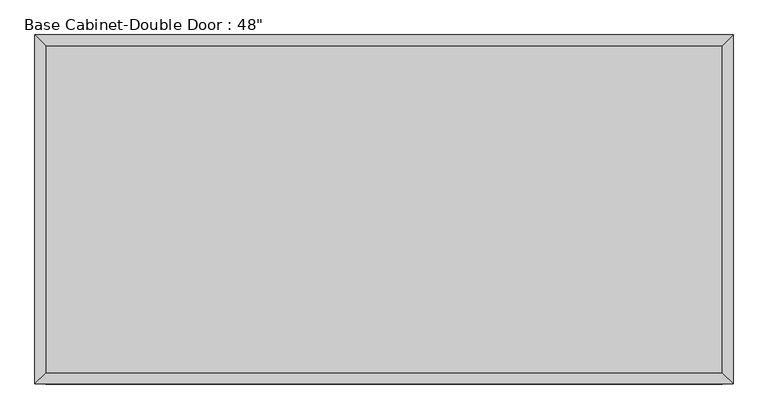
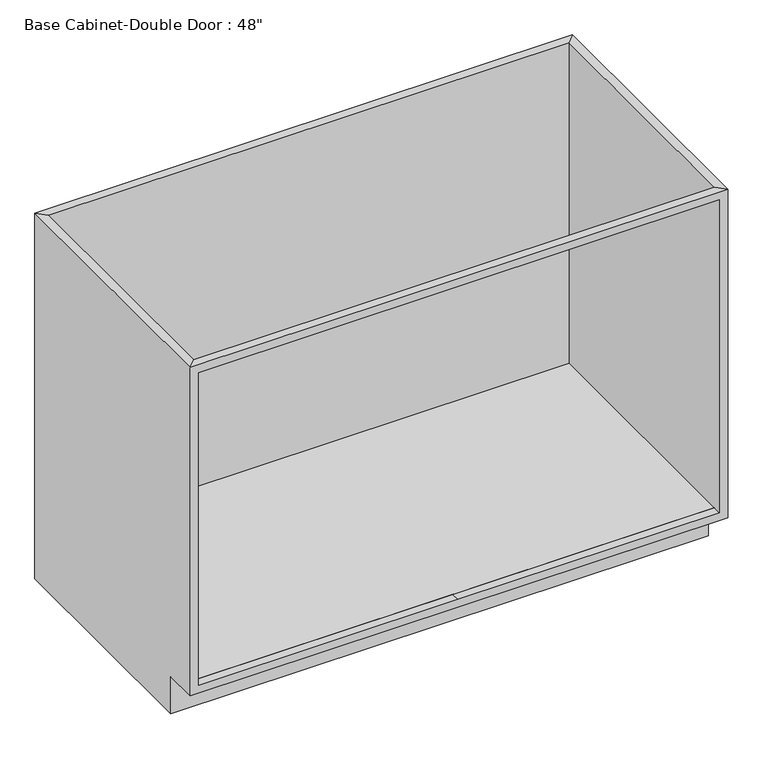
"""IFC4 building model written with IfcOpenShell, lengths in millimetres: furniture geometry."""

import ifcopenshell
import ifcopenshell.guid

model = None  # the IFC model being written
_history = None  # IfcOwnerHistory: only IFC2X3 demands one
_inside = {}  # id of a spatial element -> (the spatial element, [elements in it])
_under = {}  # id of a project, library or spatial element -> (it, [spatial elements below it])
_declared = {}  # id of a project -> (the project, [libraries it declares])
_typed = {}  # id of a type object -> (the type object, [elements of that type])
_made_of = {}  # id of a material, layer set ... -> (it, [elements and type objects made of it])


def new_model(schema):
    """Start an empty IFC model of exactly this schema.

    Asked for "IFC4X3", IfcOpenShell would pick the latest addendum, in which some entities
    have other attributes; the version numbers below select the first issue.
    IFC2X3 requires an IfcOwnerHistory on every rooted entity: one is made here for all.
    """
    global model, _history
    if schema == "IFC4X3":
        model = ifcopenshell.file(schema_version=(4, 3, 0, 0))
    else:
        model = ifcopenshell.file(schema=schema)
    _inside.clear()
    _under.clear()
    _declared.clear()
    _typed.clear()
    _made_of.clear()
    _history = None
    if model.schema == "IFC2X3":
        org = make("IfcOrganization", Name="unknown")
        user = make(
            "IfcPersonAndOrganization",
            ThePerson=make("IfcPerson", FamilyName="unknown"),
            TheOrganization=org,
        )
        app = make(
            "IfcApplication",
            ApplicationDeveloper=org,
            Version="unknown",
            ApplicationFullName="unknown",
            ApplicationIdentifier="unknown",
        )
        _history = make(
            "IfcOwnerHistory",
            OwningUser=user,
            OwningApplication=app,
            ChangeAction="ADDED",
            CreationDate=0,
        )
    return model


def make(cls, **values):
    """One entity of the class cls with the attributes given. An attribute that is None is left unset."""
    return model.create_entity(
        cls, **{name: value for name, value in values.items() if value is not None}
    )


def rooted(cls, **values):
    """An entity with a GlobalId (a new one), such as an element, a storey or a relation."""
    return make(cls, GlobalId=ifcopenshell.guid.new(), OwnerHistory=_history, **values)


def si_unit(unit_type, name, prefix=None):
    """IfcSIUnit, for example si_unit("LENGTHUNIT", "METRE", prefix="MILLI")."""
    return make("IfcSIUnit", UnitType=unit_type, Prefix=prefix, Name=name)


def assignment(units):
    """IfcUnitAssignment: the units of a project."""
    return None if units is None else make("IfcUnitAssignment", Units=units)


def point(xyz):
    """IfcCartesianPoint."""
    return None if xyz is None else make("IfcCartesianPoint", Coordinates=xyz)


def direction(xyz):
    """IfcDirection."""
    return None if xyz is None else make("IfcDirection", DirectionRatios=xyz)


def frame(location, z_axis=None, x_axis=None):
    """IfcAxis2Placement3D, a coordinate frame: its origin and axes. An axis left out is left unset."""
    return make(
        "IfcAxis2Placement3D",
        Location=point(location),
        Axis=direction(z_axis),
        RefDirection=direction(x_axis),
    )


def origin():
    """The frame at (0, 0, 0) with its axes left unset."""
    return frame((0.0, 0.0, 0.0))


def place(relative_to, where):
    """IfcLocalPlacement: puts the frame where relative to a parent placement (None: the world)."""
    return make(
        "IfcLocalPlacement", PlacementRelTo=relative_to, RelativePlacement=where
    )


def context(
    kind, dimensions, precision=None, world=None, true_north=None, identifier=None
):
    """IfcGeometricRepresentationContext, for example the 3D "Model" context."""
    return make(
        "IfcGeometricRepresentationContext",
        ContextIdentifier=identifier,
        ContextType=kind,
        CoordinateSpaceDimension=dimensions,
        Precision=precision,
        WorldCoordinateSystem=world,
        TrueNorth=true_north,
    )


def project(units=None, contexts=None):
    """IfcProject with its units and contexts."""
    return rooted(
        "IfcProject",
        Name="project",
        RepresentationContexts=contexts,
        UnitsInContext=assignment(units),
    )


def spatial(cls, under=None, at=None, **own):
    """A site, building, storey or space (cls), placed at a placement, below another one or the project."""
    s = rooted(cls, ObjectPlacement=at, **own)
    if under is not None:
        _under.setdefault(under.id(), (under, []))[1].append(s)
    return s


def polyline(points):
    """IfcPolyline through the points."""
    return make("IfcPolyline", Points=[point(p) for p in points])


def outline(outer, holes=None, kind="AREA"):
    """IfcArbitraryClosedProfileDef: a profile drawn as a closed curve; with holes, ...WithVoids."""
    if holes is None:
        return make("IfcArbitraryClosedProfileDef", ProfileType=kind, OuterCurve=outer)
    return make(
        "IfcArbitraryProfileDefWithVoids",
        ProfileType=kind,
        OuterCurve=outer,
        InnerCurves=holes,
    )


def extrude(swept, where, along, depth):
    """IfcExtrudedAreaSolid: the profile swept, set in the frame where, extruded along a direction by depth."""
    return make(
        "IfcExtrudedAreaSolid",
        SweptArea=swept,
        Position=where,
        ExtrudedDirection=direction(along),
        Depth=depth,
    )


def faces_of(points, faces, orient=None, outer=None):
    """IfcFace entities. A face is a list of loops; a loop is a list of indices into points, from 0.

    orient and outer hold one flag for each loop. By default every Orientation is true, the
    first loop of a face is its IfcFaceOuterBound and the others are IfcFaceBound.
    """
    made = []
    for i, loops in enumerate(faces):
        bounds = []
        for j, loop in enumerate(loops):
            is_outer = j == 0 if outer is None else outer[i][j]
            bounds.append(
                make(
                    "IfcFaceOuterBound" if is_outer else "IfcFaceBound",
                    Bound=make("IfcPolyLoop", Polygon=[points[k] for k in loop]),
                    Orientation=True if orient is None else orient[i][j],
                )
            )
        made.append(make("IfcFace", Bounds=bounds))
    return made


def faceted_brep(points, faces, orient=None, outer=None, voids=None):
    """IfcFacetedBrep: a solid bounded by flat faces; with voids (closed shells), ...WithVoids."""
    shared = [point(p) for p in points]
    hull = make("IfcClosedShell", CfsFaces=faces_of(shared, faces, orient, outer))
    if voids is None:
        return make("IfcFacetedBrep", Outer=hull)
    return make(
        "IfcFacetedBrepWithVoids",
        Outer=hull,
        Voids=[
            make(cls, CfsFaces=faces_of(shared, fs, o, b)) for cls, fs, o, b in voids
        ],
    )


def shape(context_of_items, identifier, shape_type, items):
    """IfcShapeRepresentation: the items that make up one representation, for example the "Body"."""
    return make(
        "IfcShapeRepresentation",
        ContextOfItems=context_of_items,
        RepresentationIdentifier=identifier,
        RepresentationType=shape_type,
        Items=items,
    )


def source(mapping_origin, context_of_items, identifier, shape_type, items):
    """IfcRepresentationMap: a shape defined once, which mapped items show again and again."""
    return make(
        "IfcRepresentationMap",
        MappingOrigin=mapping_origin,
        MappedRepresentation=shape(context_of_items, identifier, shape_type, items),
    )


def transform(
    local_origin,
    x_axis=None,
    y_axis=None,
    z_axis=None,
    scale=None,
    scale2=None,
    scale3=None,
    uniform=True,
):
    """IfcCartesianTransformationOperator3D, or its non-uniform kind. x_axis, y_axis, z_axis: its Axis1, 2, 3."""
    if uniform:
        return make(
            "IfcCartesianTransformationOperator3D",
            Axis1=direction(x_axis),
            Axis2=direction(y_axis),
            LocalOrigin=point(local_origin),
            Scale=scale,
            Axis3=direction(z_axis),
        )
    return make(
        "IfcCartesianTransformationOperator3DnonUniform",
        Axis1=direction(x_axis),
        Axis2=direction(y_axis),
        LocalOrigin=point(local_origin),
        Scale=scale,
        Axis3=direction(z_axis),
        Scale2=scale2,
        Scale3=scale3,
    )


def mapped(mapping_source, mapping_target):
    """IfcMappedItem: shows the shape of a source again, moved by a transform."""
    return make(
        "IfcMappedItem", MappingSource=mapping_source, MappingTarget=mapping_target
    )


def made_of(thing, what):
    """Note that an element or type object is made of a material, layer set ...; save() writes the relation."""
    if what is not None:
        _made_of.setdefault(what.id(), (what, []))[1].append(thing)
    return thing


def element(
    cls,
    number,
    at=None,
    inside=None,
    cuts=None,
    type_object=None,
    material=None,
    context=None,
    identifier="Body",
    shape_type=None,
    held_by="IfcProductDefinitionShape",
    body=None,
    shapes=None,
    **own,
):
    """One element of the class cls, such as IfcWall. Its Tag is "e" and its number.

    at: its placement. inside: the storey or other place that contains it. cuts: it is an
    opening in that element (IfcRelVoidsElement). A single representation is given by context,
    identifier, shape_type and body (its items); several are given by shapes. held_by: the class
    of the entity that holds the representations. save() writes the other relations.
    """
    e = rooted(cls, Tag="e%d" % number, ObjectPlacement=at, **own)
    if body is not None:
        shapes = [shape(context, identifier, shape_type, body)]
    if shapes is not None:
        e.Representation = make(held_by, Representations=shapes)
    if inside is not None:
        _inside.setdefault(inside.id(), (inside, []))[1].append(e)
    if cuts is not None:
        rooted(
            "IfcRelVoidsElement", RelatingBuildingElement=cuts, RelatedOpeningElement=e
        )
    if type_object is not None:
        _typed.setdefault(type_object.id(), (type_object, []))[1].append(e)
    return made_of(e, material)


def aggregate(whole, parts):
    """IfcRelAggregates: a whole, such as a stair, and the parts it consists of."""
    return rooted("IfcRelAggregates", RelatingObject=whole, RelatedObjects=parts)


def save(model, path):
    """Write the relations noted so far, then the file.

    IfcRelAggregates (storeys below a building ...), IfcRelContainedInSpatialStructure (elements
    in a storey), IfcRelDefinesByType, IfcRelAssociatesMaterial and IfcRelDeclares: one each for
    every whole, place, type object, material and project.
    """
    for whole, parts in _under.values():
        aggregate(whole, parts)
    for where, things in _inside.values():
        rooted(
            "IfcRelContainedInSpatialStructure",
            RelatedElements=things,
            RelatingStructure=where,
        )
    for kind, things in _typed.values():
        rooted("IfcRelDefinesByType", RelatedObjects=things, RelatingType=kind)
    for what, things in _made_of.values():
        rooted("IfcRelAssociatesMaterial", RelatedObjects=things, RelatingMaterial=what)
    for by, libraries in _declared.values():
        rooted("IfcRelDeclares", RelatingContext=by, RelatedDefinitions=libraries)
    model.write(path)


def furniture_8eba6e00(model_context):
    return source(origin(), model_context, "Body", "SolidModel", [
        faceted_brep([(-571.8122951, -533.4, 88.9), (609.2877049, -533.4, 88.9), (609.2877049, -19.05, 88.9), (-571.8122951, -19.05, 88.9), (628.3377049, 0.0, 0.0), (628.3377049, -533.4, 0.0), (-590.8622951, -533.4, 0.0), (-590.8622951, 0.0, 0.0), (628.3377049, -533.4, 88.9), (-590.8622951, -533.4, 88.9), (609.2877049, -590.55, 88.9), (-571.8122951, -590.55, 88.9), (-571.8122951, -590.55, 107.95), (15.6178314, -590.55, 107.95), (609.2877049, -590.55, 107.95), (-571.8122951, -590.55, 876.3), (609.2877049, -590.55, 876.3), (609.2877049, -590.55, 857.25), (-1.0687753, -590.55, 857.25), (-571.8122951, -590.55, 857.25), (-590.8622951, -609.6, 876.3), (628.3377049, -609.6, 876.3), (-590.8622951, -609.6, 88.9), (628.3377049, -609.6, 88.9), (-571.8122951, -609.6, 857.25), (-1.0687753, -609.6, 857.25), (609.2877049, -609.6, 857.25), (609.2877049, -609.6, 107.95), (15.6178314, -609.6, 107.95), (-571.8122951, -609.6, 107.95), (-571.8122951, -19.05, 876.3), (-590.8622951, 0.0, 876.3), (609.2877049, -19.05, 876.3), (628.3377049, 0.0, 876.3)], [[[0, 1, 2, 3]], [[4, 5, 6, 7]], [[6, 5, 8, 1, 0, 9]], [[10, 11, 12, 13, 14]], [[15, 16, 17, 18, 19]], [[16, 15, 20, 21]], [[21, 20, 22, 23], [24, 25, 26, 27, 28, 29]], [[11, 10, 23, 22]], [[3, 30, 15, 19, 24, 29, 12, 11, 0]], [[20, 15, 30, 31]], [[11, 22, 9, 0]], [[30, 3, 2, 32]], [[31, 30, 32, 33]], [[32, 2, 1, 10, 14, 27, 26, 17, 16]], [[16, 21, 33, 32]], [[23, 10, 1, 8]], [[22, 20, 31, 7, 6, 9]], [[7, 31, 33, 4]], [[21, 23, 8, 5, 4, 33]], [[18, 25, 24, 19]], [[12, 29, 28, 13]], [[13, 28, 27, 14]], [[25, 18, 17, 26]]]),
        extrude(outline(polyline([(609.2877049, -19.05), (609.2877049, -590.55), (-571.8122951, -590.55), (-571.8122951, -19.05), (609.2877049, -19.05)])), frame((0.0, 0.0, 88.9), z_axis=(0.0, 0.0, 1.0), x_axis=(1.0, 0.0, 0.0)), (0.0, 0.0, 1.0), 19.05),
    ])


if __name__ == "__main__":
    model = new_model("IFC4")
    model_context = context("Model", 3, world=origin())
    ifc_project = project(units=[si_unit("LENGTHUNIT", "METRE", prefix="MILLI")], contexts=[model_context])
    site = spatial("IfcSite", under=ifc_project)
    building = spatial("IfcBuilding", under=site)
    placement = place(None, origin())
    furniture_shape = furniture_8eba6e00(model_context)
    element("IfcFurniture", 1, ObjectType="Base Cabinet-Double Door : 48\"", at=placement, inside=building, context=model_context, shape_type="MappedRepresentation", body=[
        mapped(furniture_shape, transform((0.0, 0.0, 0.0), x_axis=(1.0, 0.0, 0.0), y_axis=(0.0, 1.0, 0.0), z_axis=(0.0, 0.0, 1.0))),
    ])
    save(model, "model.ifc")
